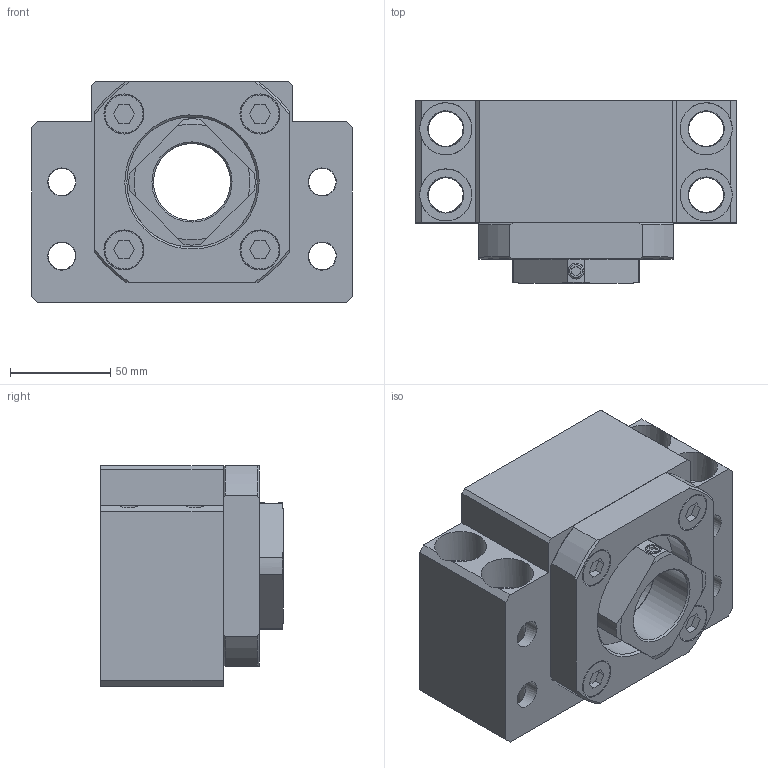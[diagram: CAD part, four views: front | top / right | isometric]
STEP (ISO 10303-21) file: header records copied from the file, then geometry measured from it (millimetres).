
FILE_DESCRIPTION( ('This file contains a STEP AP42 implementation' ,'as created by ZW3D STEP Interface translator.') ,'2;1' );
FILE_NAME( 'BDBA5C1C-E630-BB59-F9F8-92D137740D26.stp' ,'18 315.163239', (''), ('ZWCAD Software Co.'), 'Version 1.0', 'ZW3D to STEP translator', '' );
FILE_SCHEMA( ('CONFIG_CONTROL_DESIGN') );
Length unit declared in the file: millimetre
Products named in the file (4): 0; FSFBK-40; _BK 40collar; _BK 40
Assembly tree (2 placements, depth 2):
  0
  FSFBK-40
    _BK 40collar
    _BK 40
Bounding box: 160 x 91 x 110 mm (x, y, z)
Volume: 939922.4 mm3; surface area: 147085.3 mm2
Topology: 2 solids, 3 shells, 161 faces, 422 edges, 282 vertices
Faces by surface type: bspline 161
Entity records: 6505 total; most frequent: CARTESIAN_POINT 3720, ORIENTED_EDGE 844, EDGE_CURVE 422, B_SPLINE_CURVE_WITH_KNOTS 300, VERTEX_POINT 282, EDGE_LOOP 212, FACE_OUTER_BOUND 161, ADVANCED_FACE 161
